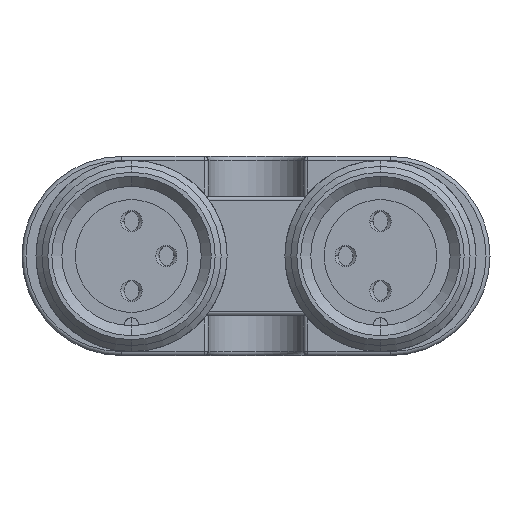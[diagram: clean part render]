
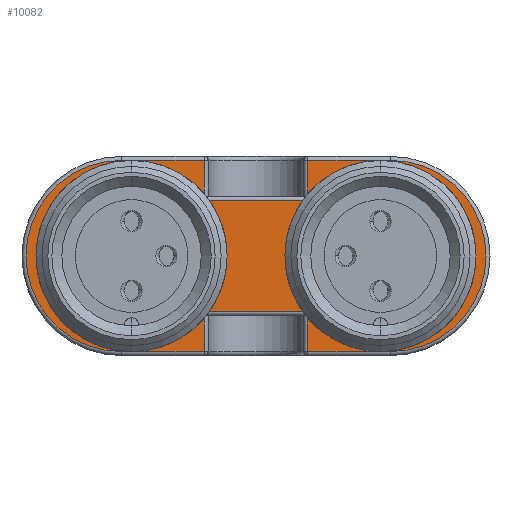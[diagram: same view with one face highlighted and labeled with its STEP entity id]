
A CAD part, front view. The second image highlights one B-rep face of the part: STEP entity #10082.
In plain terms, the highlighted planar face has unit normal (0, -1, 0).
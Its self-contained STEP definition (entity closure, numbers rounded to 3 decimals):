
#819 = LINE ( 'NONE', #9735, #1841 ) ;
#1016 = PLANE ( 'NONE',  #2340 ) ;
#1134 = VERTEX_POINT ( 'NONE', #9330 ) ;
#1192 = VECTOR ( 'NONE', #16552, 1000. ) ;
#1332 = VERTEX_POINT ( 'NONE', #14715 ) ;
#1396 = CIRCLE ( 'NONE', #12345, 2.95 ) ;
#1458 = ORIENTED_EDGE ( 'NONE', *, *, #4765, .T. ) ;
#1723 = CARTESIAN_POINT ( 'NONE',  ( 38.672, 52.302, 0.254 ) ) ;
#1773 = LINE ( 'NONE', #18140, #4943 ) ;
#1841 = VECTOR ( 'NONE', #15720, 1000. ) ;
#1987 = ORIENTED_EDGE ( 'NONE', *, *, #8633, .T. ) ;
#2340 = AXIS2_PLACEMENT_3D ( 'NONE', #6615, #6900, #5422 ) ;
#2353 = VERTEX_POINT ( 'NONE', #17331 ) ;
#2489 = VERTEX_POINT ( 'NONE', #18970 ) ;
#2666 = CARTESIAN_POINT ( 'NONE',  ( 51.672, 52.302, 3.054 ) ) ;
#2721 = EDGE_CURVE ( 'NONE', #7036, #1134, #4660, .T. ) ;
#2743 = CARTESIAN_POINT ( 'NONE',  ( 48.022, 52.302, 5.854 ) ) ;
#3181 = EDGE_CURVE ( 'NONE', #4421, #13681, #3921, .T. ) ;
#3369 = CARTESIAN_POINT ( 'NONE',  ( 51.672, 52.302, 3.054 ) ) ;
#3374 = CARTESIAN_POINT ( 'NONE',  ( 42.822, 52.302, 3.054 ) ) ;
#3413 = AXIS2_PLACEMENT_3D ( 'NONE', #6744, #11252, #7585 ) ;
#3417 = CARTESIAN_POINT ( 'NONE',  ( 39.172, 52.302, 3.054 ) ) ;
#3690 = ORIENTED_EDGE ( 'NONE', *, *, #17588, .T. ) ;
#3921 = CIRCLE ( 'NONE', #18623, 2.95 ) ;
#3935 = CARTESIAN_POINT ( 'NONE',  ( 51.672, 52.302, 6.004 ) ) ;
#4013 = DIRECTION ( 'NONE',  ( -1., 0., 0. ) ) ;
#4262 = ORIENTED_EDGE ( 'NONE', *, *, #13478, .T. ) ;
#4277 = EDGE_CURVE ( 'NONE', #5644, #7036, #18467, .T. ) ;
#4421 = VERTEX_POINT ( 'NONE', #4606 ) ;
#4496 = CIRCLE ( 'NONE', #18889, 2.95 ) ;
#4561 = VERTEX_POINT ( 'NONE', #10875 ) ;
#4606 = CARTESIAN_POINT ( 'NONE',  ( 51.672, 52.302, 0.104 ) ) ;
#4639 = CARTESIAN_POINT ( 'NONE',  ( 39.172, 52.302, 6.004 ) ) ;
#4660 = LINE ( 'NONE', #1723, #7487 ) ;
#4765 = EDGE_CURVE ( 'NONE', #10798, #2489, #8240, .T. ) ;
#4820 = DIRECTION ( 'NONE',  ( 1., 0., 0. ) ) ;
#4837 = ORIENTED_EDGE ( 'NONE', *, *, #2721, .T. ) ;
#4906 = VERTEX_POINT ( 'NONE', #7238 ) ;
#4943 = VECTOR ( 'NONE', #7461, 1000. ) ;
#5194 = VERTEX_POINT ( 'NONE', #4639 ) ;
#5273 = VECTOR ( 'NONE', #4820, 1000. ) ;
#5333 = CARTESIAN_POINT ( 'NONE',  ( 48.022, 52.302, 7.854 ) ) ;
#5422 = DIRECTION ( 'NONE',  ( 0., 0., -1. ) ) ;
#5593 = DIRECTION ( 'NONE',  ( 0., -1., 0. ) ) ;
#5644 = VERTEX_POINT ( 'NONE', #5801 ) ;
#5801 = CARTESIAN_POINT ( 'NONE',  ( 42.822, 52.302, -1.746 ) ) ;
#5910 = CARTESIAN_POINT ( 'NONE',  ( 48.022, 52.302, -1.746 ) ) ;
#6381 = LINE ( 'NONE', #19158, #12547 ) ;
#6615 = CARTESIAN_POINT ( 'NONE',  ( 38.672, 52.302, 3.054 ) ) ;
#6697 = CARTESIAN_POINT ( 'NONE',  ( 39.172, 52.302, 3.054 ) ) ;
#6744 = CARTESIAN_POINT ( 'NONE',  ( 52.172, 52.302, 3.054 ) ) ;
#6752 = VECTOR ( 'NONE', #9445, 1000. ) ;
#6802 = ORIENTED_EDGE ( 'NONE', *, *, #4277, .T. ) ;
#6817 = VERTEX_POINT ( 'NONE', #6965 ) ;
#6900 = DIRECTION ( 'NONE',  ( 0., -1., 0. ) ) ;
#6965 = CARTESIAN_POINT ( 'NONE',  ( 52.172, 52.302, -1.746 ) ) ;
#7036 = VERTEX_POINT ( 'NONE', #8403 ) ;
#7238 = CARTESIAN_POINT ( 'NONE',  ( 42.822, 52.302, 7.854 ) ) ;
#7254 = DIRECTION ( 'NONE',  ( 1., 0., 0. ) ) ;
#7461 = DIRECTION ( 'NONE',  ( 0., 0., -1. ) ) ;
#7487 = VECTOR ( 'NONE', #10436, 1000. ) ;
#7585 = DIRECTION ( 'NONE',  ( 0., 0., -1. ) ) ;
#7766 = EDGE_CURVE ( 'NONE', #5194, #4561, #12395, .T. ) ;
#7844 = CARTESIAN_POINT ( 'NONE',  ( 52.172, 52.302, 7.854 ) ) ;
#7867 = CARTESIAN_POINT ( 'NONE',  ( 38.672, 52.302, -1.746 ) ) ;
#7964 = DIRECTION ( 'NONE',  ( 0., -1., 0. ) ) ;
#8240 = LINE ( 'NONE', #9884, #11688 ) ;
#8403 = CARTESIAN_POINT ( 'NONE',  ( 42.822, 52.302, 0.254 ) ) ;
#8633 = EDGE_CURVE ( 'NONE', #6817, #9777, #14055, .T. ) ;
#8839 = EDGE_CURVE ( 'NONE', #4906, #2353, #819, .T. ) ;
#9048 = ORIENTED_EDGE ( 'NONE', *, *, #7766, .T. ) ;
#9211 = EDGE_CURVE ( 'NONE', #1332, #5644, #9891, .T. ) ;
#9330 = CARTESIAN_POINT ( 'NONE',  ( 48.022, 52.302, 0.254 ) ) ;
#9445 = DIRECTION ( 'NONE',  ( 0., 0., 1. ) ) ;
#9666 = VECTOR ( 'NONE', #12792, 1000. ) ;
#9735 = CARTESIAN_POINT ( 'NONE',  ( 38.672, 52.302, 7.854 ) ) ;
#9777 = VERTEX_POINT ( 'NONE', #7844 ) ;
#9884 = CARTESIAN_POINT ( 'NONE',  ( 38.672, 52.302, 5.854 ) ) ;
#9891 = LINE ( 'NONE', #10188, #14378 ) ;
#10082 = ADVANCED_FACE ( 'NONE', ( #14259, #12786, #17009 ), #1016, .T. ) ;
#10093 = ORIENTED_EDGE ( 'NONE', *, *, #3181, .F. ) ;
#10188 = CARTESIAN_POINT ( 'NONE',  ( 38.672, 52.302, -1.746 ) ) ;
#10436 = DIRECTION ( 'NONE',  ( 1., 0., 0. ) ) ;
#10544 = EDGE_CURVE ( 'NONE', #13681, #4421, #1396, .T. ) ;
#10694 = LINE ( 'NONE', #7867, #5273 ) ;
#10798 = VERTEX_POINT ( 'NONE', #2743 ) ;
#10875 = CARTESIAN_POINT ( 'NONE',  ( 39.172, 52.302, 0.104 ) ) ;
#10891 = CIRCLE ( 'NONE', #12797, 4.8 ) ;
#10995 = EDGE_CURVE ( 'NONE', #4561, #5194, #4496, .T. ) ;
#11252 = DIRECTION ( 'NONE',  ( 0., -1., 0. ) ) ;
#11431 = ORIENTED_EDGE ( 'NONE', *, *, #16783, .T. ) ;
#11688 = VECTOR ( 'NONE', #4013, 1000. ) ;
#12345 = AXIS2_PLACEMENT_3D ( 'NONE', #2666, #5593, #7254 ) ;
#12374 = EDGE_LOOP ( 'NONE', ( #10093, #18808 ) ) ;
#12395 = CIRCLE ( 'NONE', #17404, 2.95 ) ;
#12506 = LINE ( 'NONE', #14264, #9666 ) ;
#12547 = VECTOR ( 'NONE', #16778, 1000. ) ;
#12773 = EDGE_LOOP ( 'NONE', ( #19360, #9048 ) ) ;
#12786 = FACE_BOUND ( 'NONE', #12374, .T. ) ;
#12792 = DIRECTION ( 'NONE',  ( 0., 0., 1. ) ) ;
#12797 = AXIS2_PLACEMENT_3D ( 'NONE', #14147, #17282, #15810 ) ;
#13077 = EDGE_LOOP ( 'NONE', ( #1987, #14485, #11431, #1458, #14643, #18550, #3690, #14493, #6802, #4837, #18161, #4262 ) ) ;
#13242 = DIRECTION ( 'NONE',  ( 0., 1., 0. ) ) ;
#13478 = EDGE_CURVE ( 'NONE', #14423, #6817, #10694, .T. ) ;
#13681 = VERTEX_POINT ( 'NONE', #3935 ) ;
#13937 = DIRECTION ( 'NONE',  ( 1., 0., 0. ) ) ;
#14055 = CIRCLE ( 'NONE', #3413, 4.8 ) ;
#14147 = CARTESIAN_POINT ( 'NONE',  ( 38.672, 52.302, 3.054 ) ) ;
#14259 = FACE_OUTER_BOUND ( 'NONE', #13077, .T. ) ;
#14264 = CARTESIAN_POINT ( 'NONE',  ( 42.822, 52.302, 3.054 ) ) ;
#14296 = VERTEX_POINT ( 'NONE', #5333 ) ;
#14378 = VECTOR ( 'NONE', #15879, 1000. ) ;
#14423 = VERTEX_POINT ( 'NONE', #5910 ) ;
#14485 = ORIENTED_EDGE ( 'NONE', *, *, #18878, .T. ) ;
#14493 = ORIENTED_EDGE ( 'NONE', *, *, #9211, .T. ) ;
#14643 = ORIENTED_EDGE ( 'NONE', *, *, #16130, .T. ) ;
#14715 = CARTESIAN_POINT ( 'NONE',  ( 38.672, 52.302, -1.746 ) ) ;
#15720 = DIRECTION ( 'NONE',  ( -1., 0., 0. ) ) ;
#15810 = DIRECTION ( 'NONE',  ( 0., 0., -1. ) ) ;
#15879 = DIRECTION ( 'NONE',  ( 1., 0., 0. ) ) ;
#16130 = EDGE_CURVE ( 'NONE', #2489, #4906, #12506, .T. ) ;
#16552 = DIRECTION ( 'NONE',  ( 0., 0., -1. ) ) ;
#16778 = DIRECTION ( 'NONE',  ( -1., 0., 0. ) ) ;
#16783 = EDGE_CURVE ( 'NONE', #14296, #10798, #1773, .T. ) ;
#17009 = FACE_BOUND ( 'NONE', #12773, .T. ) ;
#17074 = EDGE_CURVE ( 'NONE', #1134, #14423, #17921, .T. ) ;
#17128 = DIRECTION ( 'NONE',  ( 0., 1., 0. ) ) ;
#17230 = DIRECTION ( 'NONE',  ( -1., 0., 0. ) ) ;
#17282 = DIRECTION ( 'NONE',  ( 0., -1., 0. ) ) ;
#17331 = CARTESIAN_POINT ( 'NONE',  ( 38.672, 52.302, 7.854 ) ) ;
#17404 = AXIS2_PLACEMENT_3D ( 'NONE', #6697, #13242, #17470 ) ;
#17470 = DIRECTION ( 'NONE',  ( -1., 0., 0. ) ) ;
#17588 = EDGE_CURVE ( 'NONE', #2353, #1332, #10891, .T. ) ;
#17921 = LINE ( 'NONE', #18117, #1192 ) ;
#18117 = CARTESIAN_POINT ( 'NONE',  ( 48.022, 52.302, 3.054 ) ) ;
#18140 = CARTESIAN_POINT ( 'NONE',  ( 48.022, 52.302, 3.054 ) ) ;
#18161 = ORIENTED_EDGE ( 'NONE', *, *, #17074, .T. ) ;
#18467 = LINE ( 'NONE', #3374, #6752 ) ;
#18550 = ORIENTED_EDGE ( 'NONE', *, *, #8839, .T. ) ;
#18623 = AXIS2_PLACEMENT_3D ( 'NONE', #3369, #7964, #13937 ) ;
#18808 = ORIENTED_EDGE ( 'NONE', *, *, #10544, .F. ) ;
#18878 = EDGE_CURVE ( 'NONE', #9777, #14296, #6381, .T. ) ;
#18889 = AXIS2_PLACEMENT_3D ( 'NONE', #3417, #17128, #17230 ) ;
#18970 = CARTESIAN_POINT ( 'NONE',  ( 42.822, 52.302, 5.854 ) ) ;
#19158 = CARTESIAN_POINT ( 'NONE',  ( 38.672, 52.302, 7.854 ) ) ;
#19360 = ORIENTED_EDGE ( 'NONE', *, *, #10995, .T. ) ;
